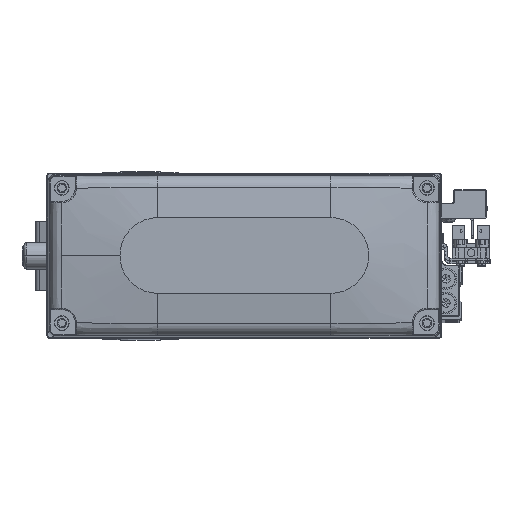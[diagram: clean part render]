
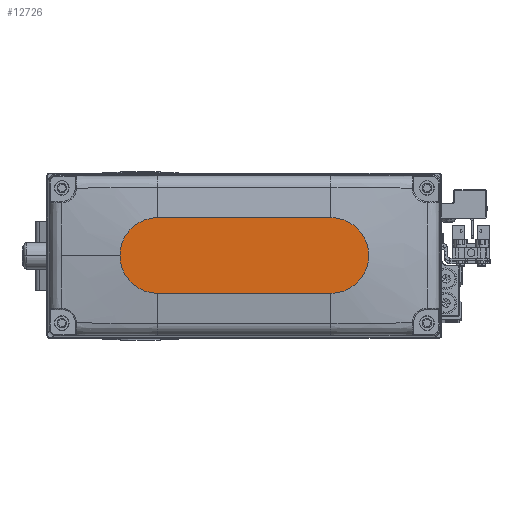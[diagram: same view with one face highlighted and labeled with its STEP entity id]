
A CAD part, top view. The second image highlights one B-rep face of the part: STEP entity #12726.
In plain terms, the highlighted planar face has unit normal (0, 0, 1).
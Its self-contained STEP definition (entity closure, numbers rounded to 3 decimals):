
#508 = ORIENTED_EDGE ( 'NONE', *, *, #23199, .T. ) ;
#962 = EDGE_CURVE ( 'NONE', #11552, #44414, #31632, .T. ) ;
#2013 = CARTESIAN_POINT ( 'NONE',  ( 32., 0., 35. ) ) ;
#3605 = DIRECTION ( 'NONE',  ( 0., 0., 1. ) ) ;
#5975 = ORIENTED_EDGE ( 'NONE', *, *, #12729, .T. ) ;
#6334 = AXIS2_PLACEMENT_3D ( 'NONE', #12194, #26641, #41081 ) ;
#6948 = CIRCLE ( 'NONE', #39449, 14. ) ;
#7158 = FACE_OUTER_BOUND ( 'NONE', #30275, .T. ) ;
#7377 = DIRECTION ( 'NONE',  ( 1., 0., 0. ) ) ;
#9547 = VECTOR ( 'NONE', #11771, 1000. ) ;
#10880 = CARTESIAN_POINT ( 'NONE',  ( 32., 14., 35. ) ) ;
#11228 = AXIS2_PLACEMENT_3D ( 'NONE', #14875, #29300, #43728 ) ;
#11410 = ORIENTED_EDGE ( 'NONE', *, *, #962, .T. ) ;
#11552 = VERTEX_POINT ( 'NONE', #31291 ) ;
#11771 = DIRECTION ( 'NONE',  ( -1., 0., 0. ) ) ;
#12194 = CARTESIAN_POINT ( 'NONE',  ( 32., 0., 35. ) ) ;
#12726 = ADVANCED_FACE ( 'NONE', ( #7158 ), #21594, .T. ) ;
#12729 = EDGE_CURVE ( 'NONE', #44414, #32803, #25378, .T. ) ;
#14342 = EDGE_CURVE ( 'NONE', #32803, #15206, #6948, .T. ) ;
#14875 = CARTESIAN_POINT ( 'NONE',  ( -32., 0., 35. ) ) ;
#15206 = VERTEX_POINT ( 'NONE', #39201 ) ;
#16444 = DIRECTION ( 'NONE',  ( 0., 0., 1. ) ) ;
#18029 = DIRECTION ( 'NONE',  ( 1., 0., 0. ) ) ;
#19974 = CARTESIAN_POINT ( 'NONE',  ( 32., -14., 35. ) ) ;
#21594 = PLANE ( 'NONE',  #32545 ) ;
#23199 = EDGE_CURVE ( 'NONE', #15206, #23744, #26748, .T. ) ;
#23744 = VERTEX_POINT ( 'NONE', #10880 ) ;
#25378 = LINE ( 'NONE', #39799, #38554 ) ;
#26641 = DIRECTION ( 'NONE',  ( 0., 0., 1. ) ) ;
#26748 = CIRCLE ( 'NONE', #6334, 14. ) ;
#29300 = DIRECTION ( 'NONE',  ( 0., 0., 1. ) ) ;
#29780 = LINE ( 'NONE', #44203, #9547 ) ;
#30275 = EDGE_LOOP ( 'NONE', ( #40675, #11410, #5975, #39791, #508 ) ) ;
#30877 = DIRECTION ( 'NONE',  ( 1., 0., 0. ) ) ;
#31291 = CARTESIAN_POINT ( 'NONE',  ( -32., 14., 35. ) ) ;
#31632 = CIRCLE ( 'NONE', #11228, 14. ) ;
#32169 = EDGE_CURVE ( 'NONE', #23744, #11552, #29780, .T. ) ;
#32545 = AXIS2_PLACEMENT_3D ( 'NONE', #36036, #3605, #18029 ) ;
#32803 = VERTEX_POINT ( 'NONE', #19974 ) ;
#36036 = CARTESIAN_POINT ( 'NONE',  ( 0., 0., 35. ) ) ;
#38554 = VECTOR ( 'NONE', #7377, 1000. ) ;
#39201 = CARTESIAN_POINT ( 'NONE',  ( 46., 0., 35. ) ) ;
#39449 = AXIS2_PLACEMENT_3D ( 'NONE', #2013, #16444, #30877 ) ;
#39791 = ORIENTED_EDGE ( 'NONE', *, *, #14342, .T. ) ;
#39799 = CARTESIAN_POINT ( 'NONE',  ( -32., -14., 35. ) ) ;
#40244 = CARTESIAN_POINT ( 'NONE',  ( -32., -14., 35. ) ) ;
#40675 = ORIENTED_EDGE ( 'NONE', *, *, #32169, .T. ) ;
#41081 = DIRECTION ( 'NONE',  ( 1., 0., 0. ) ) ;
#43728 = DIRECTION ( 'NONE',  ( 1., 0., 0. ) ) ;
#44203 = CARTESIAN_POINT ( 'NONE',  ( -32., 14., 35. ) ) ;
#44414 = VERTEX_POINT ( 'NONE', #40244 ) ;
